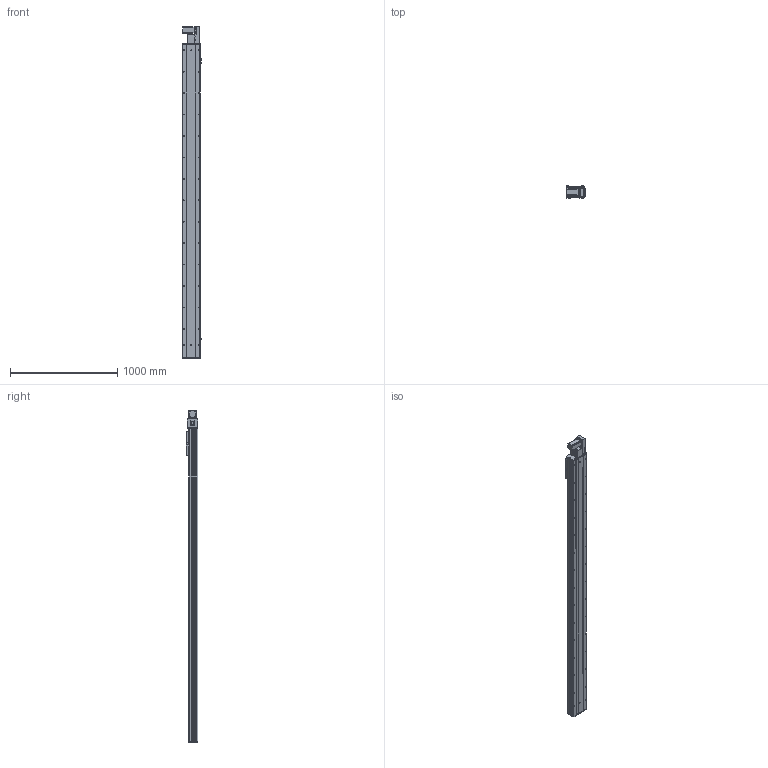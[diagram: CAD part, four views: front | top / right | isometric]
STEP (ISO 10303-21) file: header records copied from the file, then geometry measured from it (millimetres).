
FILE_DESCRIPTION (( 'STEP AP203' ), '1' );
FILE_NAME ('Y170CB-D105-S2600-BR-P400W.STEP', '2020-02-19T09:52:44', ( '微软用户' ), ( '微软中国' ), 'SwSTEP 2.0', 'SolidWorks 2017', '' );
FILE_SCHEMA (( 'CONFIG_CONTROL_DESIGN' ));
Length unit declared in the file: millimetre
Products named in the file (17): 70C--詩湍揤踡え-; 70CB--耜裔; 70C-雄赽釱-奻-; 0C--雄赽釱俋欶-170; 70CB-詩湍--; Y100-135俋离換覜ん--; Y170CB-陔俋离換覜結え---; 70B喘謫眊----; 70CB-耜裔啣-; B-源倛裔啣; 70CB-掛极-; --70CB --喘謫眊楊擘啣-; 17B-耜蚾蟀諉啣----; 0B-萇儂楊擘啣; san松下电机400不带刹车----; Y170CB-D105-S2600-BR-P400W; Y70俋欶BR----
Assembly tree (20 placements, depth 2):
  Y170CB-D105-S2600-BR-P400W
    70B喘謫眊----
    B-源倛裔啣
    17B-耜蚾蟀諉啣----
    0B-萇儂楊擘啣
    san松下电机400不带刹车----
    Y70俋欶BR----
    70CB-掛极-
    --70CB --喘謫眊楊擘啣-
    70CB-耜裔啣-  x2
    70C--詩湍揤踡え-  x2
    70CB--耜裔
    70C-雄赽釱-奻-
    0C--雄赽釱俋欶-170
    70CB-詩湍--
    Y100-135俋离換覜ん--  x3
    Y170CB-陔俋离換覜結え---
Bounding box: 183.5 x 107 x 3097 mm (x, y, z)
Volume: 12832136.7 mm3; surface area: 4627485.6 mm2
Topology: 20 solids, 20 shells, 1057 faces, 2849 edges, 1890 vertices
Faces by surface type: cylinder 571, plane 462, cone 24
Entity records: 33795 total; most frequent: CARTESIAN_POINT 6261, DIRECTION 5500, ORIENTED_EDGE 5180, EDGE_CURVE 2590, AXIS2_PLACEMENT_3D 2025, VERTEX_POINT 1720, VECTOR 1450, LINE 1450
